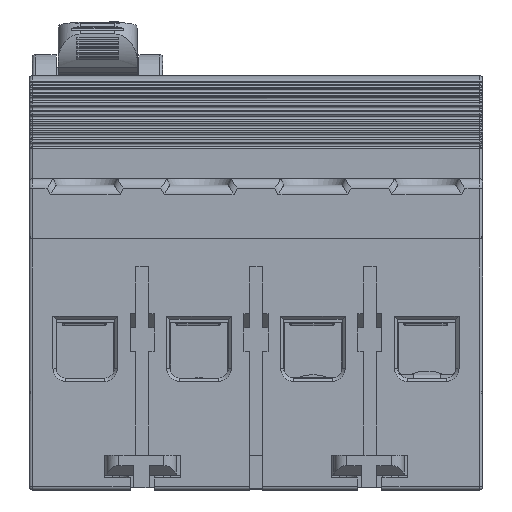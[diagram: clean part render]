
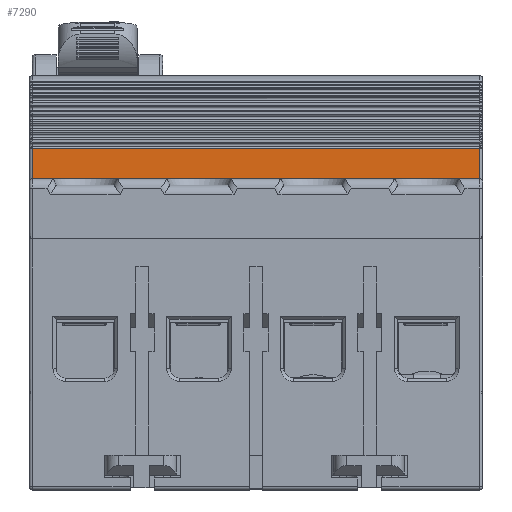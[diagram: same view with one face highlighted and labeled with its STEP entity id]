
A CAD part, front view. The second image highlights one B-rep face of the part: STEP entity #7290.
In plain terms, the highlighted planar face has unit normal (0, -1, 0) as drawn and (0, 0, 1) by its records, which use the part's own axes.
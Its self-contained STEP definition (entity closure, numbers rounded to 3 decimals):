
#1126 = CARTESIAN_POINT ( 'NONE',  ( 11.115, -18.699, 22.448 ) ) ;
#1846 = EDGE_CURVE ( 'NONE', #70933, #42974, #27390, .T. ) ;
#1888 = VECTOR ( 'NONE', #96041, 1000. ) ;
#5547 = AXIS2_PLACEMENT_3D ( 'NONE', #106214, #118120, #66567 ) ;
#6798 = LINE ( 'NONE', #84853, #75084 ) ;
#7290 = ADVANCED_FACE ( 'NONE', ( #48643 ), #15623, .T. ) ;
#9113 = CARTESIAN_POINT ( 'NONE',  ( 11.115, -13.922, 22.448 ) ) ;
#9822 = ORIENTED_EDGE ( 'NONE', *, *, #117202, .T. ) ;
#15623 = PLANE ( 'NONE',  #5547 ) ;
#25978 = ORIENTED_EDGE ( 'NONE', *, *, #101500, .F. ) ;
#27390 = LINE ( 'NONE', #47891, #30201 ) ;
#27909 = LINE ( 'NONE', #116568, #1888 ) ;
#30201 = VECTOR ( 'NONE', #38602, 1000. ) ;
#37523 = VERTEX_POINT ( 'NONE', #66687 ) ;
#38602 = DIRECTION ( 'NONE',  ( 0., -1., 0. ) ) ;
#42974 = VERTEX_POINT ( 'NONE', #1126 ) ;
#47891 = CARTESIAN_POINT ( 'NONE',  ( 11.115, -13.922, 22.448 ) ) ;
#48643 = FACE_OUTER_BOUND ( 'NONE', #115416, .T. ) ;
#56093 = LINE ( 'NONE', #116264, #101337 ) ;
#66567 = DIRECTION ( 'NONE',  ( 0., -1., 0. ) ) ;
#66687 = CARTESIAN_POINT ( 'NONE',  ( -59.581, -18.699, 22.448 ) ) ;
#70933 = VERTEX_POINT ( 'NONE', #9113 ) ;
#75084 = VECTOR ( 'NONE', #127850, 1000. ) ;
#78520 = DIRECTION ( 'NONE',  ( 1., 0., 0. ) ) ;
#84853 = CARTESIAN_POINT ( 'NONE',  ( -59.581, -18.699, 22.448 ) ) ;
#96041 = DIRECTION ( 'NONE',  ( 1., 0., 0. ) ) ;
#101337 = VECTOR ( 'NONE', #78520, 1000. ) ;
#101500 = EDGE_CURVE ( 'NONE', #129740, #70933, #27909, .T. ) ;
#106214 = CARTESIAN_POINT ( 'NONE',  ( 20.119, 0., 22.448 ) ) ;
#110550 = ORIENTED_EDGE ( 'NONE', *, *, #1846, .F. ) ;
#114032 = CARTESIAN_POINT ( 'NONE',  ( -59.581, -13.922, 22.448 ) ) ;
#115416 = EDGE_LOOP ( 'NONE', ( #110550, #25978, #126350, #9822 ) ) ;
#116264 = CARTESIAN_POINT ( 'NONE',  ( -59.581, -18.699, 22.448 ) ) ;
#116568 = CARTESIAN_POINT ( 'NONE',  ( -59.581, -13.922, 22.448 ) ) ;
#117202 = EDGE_CURVE ( 'NONE', #37523, #42974, #56093, .T. ) ;
#118120 = DIRECTION ( 'NONE',  ( 0., 0., 1. ) ) ;
#125402 = EDGE_CURVE ( 'NONE', #37523, #129740, #6798, .T. ) ;
#126350 = ORIENTED_EDGE ( 'NONE', *, *, #125402, .F. ) ;
#127850 = DIRECTION ( 'NONE',  ( 0., 1., 0. ) ) ;
#129740 = VERTEX_POINT ( 'NONE', #114032 ) ;
